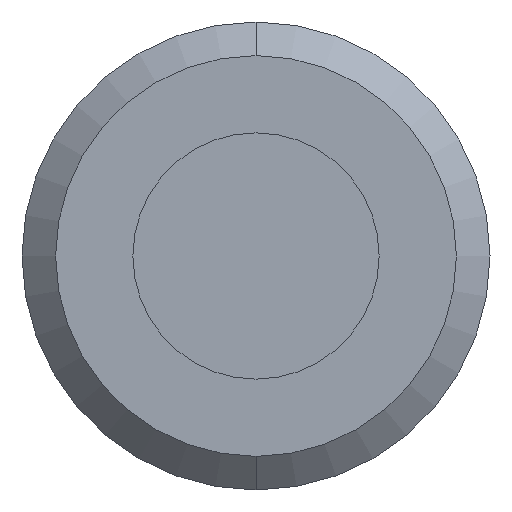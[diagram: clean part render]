
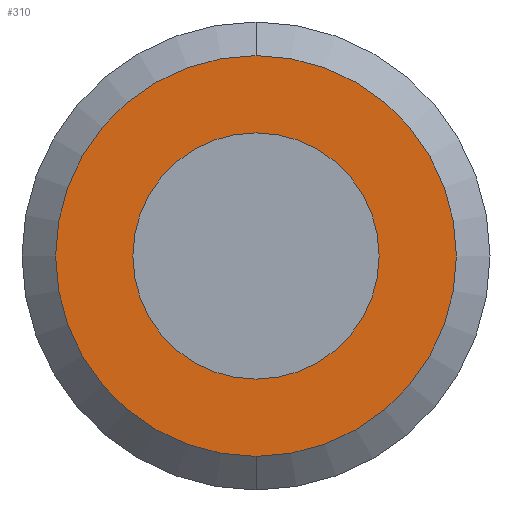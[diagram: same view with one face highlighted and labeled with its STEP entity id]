
A CAD part, left-side view. The second image highlights one B-rep face of the part: STEP entity #310.
In plain terms, the highlighted planar face has unit normal (-1, 0, 0).
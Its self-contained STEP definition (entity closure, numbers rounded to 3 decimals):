
#16 = AXIS2_PLACEMENT_3D ( 'NONE', #676, #319, #249 ) ;
#59 = CARTESIAN_POINT ( 'NONE',  ( 90.576, 107.796, 0. ) ) ;
#73 = EDGE_LOOP ( 'NONE', ( #775, #826 ) ) ;
#101 = VERTEX_POINT ( 'NONE', #745 ) ;
#112 = FACE_BOUND ( 'NONE', #476, .T. ) ;
#142 = EDGE_CURVE ( 'NONE', #438, #101, #434, .T. ) ;
#198 = AXIS2_PLACEMENT_3D ( 'NONE', #59, #829, #258 ) ;
#204 = CIRCLE ( 'NONE', #880, 8.136 ) ;
#218 = EDGE_CURVE ( 'NONE', #436, #554, #729, .T. ) ;
#249 = DIRECTION ( 'NONE',  ( 0., 0., 1. ) ) ;
#255 = DIRECTION ( 'NONE',  ( 1., 0., 0. ) ) ;
#258 = DIRECTION ( 'NONE',  ( 0., 0., -1. ) ) ;
#310 = ADVANCED_FACE ( 'NONE', ( #112, #590 ), #687, .T. ) ;
#319 = DIRECTION ( 'NONE',  ( -1., 0., 0. ) ) ;
#321 = DIRECTION ( 'NONE',  ( 0., 0., 1. ) ) ;
#346 = CARTESIAN_POINT ( 'NONE',  ( 90.576, 107.796, 8.136 ) ) ;
#377 = CIRCLE ( 'NONE', #895, 5. ) ;
#378 = CARTESIAN_POINT ( 'NONE',  ( 90.576, 107.796, -8.136 ) ) ;
#434 = CIRCLE ( 'NONE', #16, 5. ) ;
#436 = VERTEX_POINT ( 'NONE', #346 ) ;
#438 = VERTEX_POINT ( 'NONE', #721 ) ;
#476 = EDGE_LOOP ( 'NONE', ( #817, #678 ) ) ;
#530 = AXIS2_PLACEMENT_3D ( 'NONE', #756, #693, #821 ) ;
#554 = VERTEX_POINT ( 'NONE', #378 ) ;
#590 = FACE_OUTER_BOUND ( 'NONE', #73, .T. ) ;
#676 = CARTESIAN_POINT ( 'NONE',  ( 90.576, 107.796, 0. ) ) ;
#678 = ORIENTED_EDGE ( 'NONE', *, *, #142, .F. ) ;
#687 = PLANE ( 'NONE',  #530 ) ;
#693 = DIRECTION ( 'NONE',  ( -1., 0., 0. ) ) ;
#699 = EDGE_CURVE ( 'NONE', #554, #436, #204, .T. ) ;
#721 = CARTESIAN_POINT ( 'NONE',  ( 90.576, 107.796, -5. ) ) ;
#729 = CIRCLE ( 'NONE', #198, 8.136 ) ;
#743 = CARTESIAN_POINT ( 'NONE',  ( 90.576, 107.796, 0. ) ) ;
#745 = CARTESIAN_POINT ( 'NONE',  ( 90.576, 107.796, 5. ) ) ;
#756 = CARTESIAN_POINT ( 'NONE',  ( 90.576, 107.796, 0. ) ) ;
#775 = ORIENTED_EDGE ( 'NONE', *, *, #699, .F. ) ;
#817 = ORIENTED_EDGE ( 'NONE', *, *, #836, .F. ) ;
#821 = DIRECTION ( 'NONE',  ( 0., 0., 1. ) ) ;
#826 = ORIENTED_EDGE ( 'NONE', *, *, #218, .F. ) ;
#829 = DIRECTION ( 'NONE',  ( 1., 0., 0. ) ) ;
#836 = EDGE_CURVE ( 'NONE', #101, #438, #377, .T. ) ;
#864 = CARTESIAN_POINT ( 'NONE',  ( 90.576, 107.796, 0. ) ) ;
#879 = DIRECTION ( 'NONE',  ( -1., 0., 0. ) ) ;
#880 = AXIS2_PLACEMENT_3D ( 'NONE', #864, #255, #894 ) ;
#894 = DIRECTION ( 'NONE',  ( 0., 0., -1. ) ) ;
#895 = AXIS2_PLACEMENT_3D ( 'NONE', #743, #879, #321 ) ;
